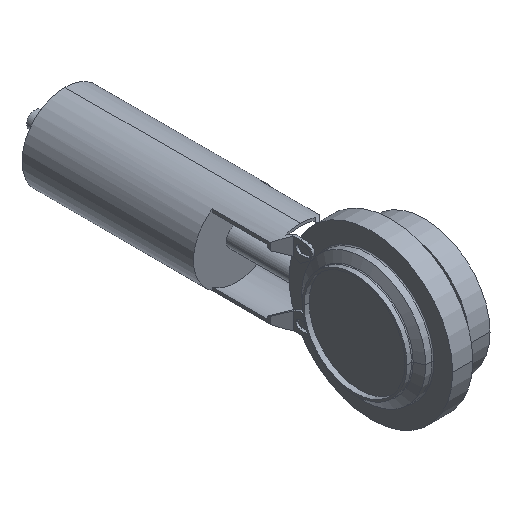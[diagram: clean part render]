
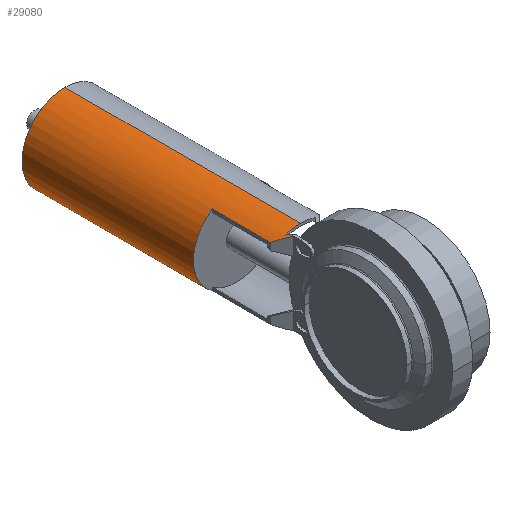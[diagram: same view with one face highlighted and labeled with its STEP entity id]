
A CAD part, isometric view. The second image highlights one B-rep face of the part: STEP entity #29080.
In plain terms, the highlighted cylindrical face has radius 42.5 mm (diameter 85 mm), a partial arc.
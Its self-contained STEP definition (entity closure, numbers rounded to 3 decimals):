
#17690=CARTESIAN_POINT('',(-438.648,176.528,
-35.075));
#17700=VERTEX_POINT('',#17690);
#17730=CARTESIAN_POINT('',(-414.648,176.528,
0.));
#17740=DIRECTION('',(0.,-1.,0.));
#17750=DIRECTION('',(0.,0.,1.));
#17760=AXIS2_PLACEMENT_3D('',#17730,#17740,#17750);
#17770=CIRCLE('',#17760,42.5);
#17780=CARTESIAN_POINT('',(-438.648,176.528,
35.075));
#17790=VERTEX_POINT('',#17780);
#17800=EDGE_CURVE('',#17790,#17700,#17770,.T.);
#22600=CARTESIAN_POINT('',(-414.648,113.128,
0.));
#22610=DIRECTION('',(0.,-1.,0.));
#22620=DIRECTION('',(0.,0.,-1.));
#22630=AXIS2_PLACEMENT_3D('',#22600,#22610,#22620);
#22640=CIRCLE('',#22630,42.5);
#22650=CARTESIAN_POINT('',(-414.648,113.128,-42.5));
#22660=VERTEX_POINT('',#22650);
#22690=CARTESIAN_POINT('',(-429.706,113.128,
-39.743));
#22700=VERTEX_POINT('',#22690);
#22710=EDGE_CURVE('',#22700,#22660,#22640,.T.);
#22970=CARTESIAN_POINT('',(-414.648,98.071,
0.));
#22980=DIRECTION('',(0.707,0.707,0.));
#22990=DIRECTION('',(0.707,-0.707,0.));
#23000=AXIS2_PLACEMENT_3D('',#22970,#22980,#22990);
#23010=ELLIPSE('',#23000,60.104,42.5);
#23020=CARTESIAN_POINT('',(-424.648,108.071,
-41.307));
#23030=VERTEX_POINT('',#23020);
#23040=EDGE_CURVE('',#23030,#22700,#23010,.T.);
#23220=CARTESIAN_POINT('',(-438.648,373.39,
-35.075));
#23230=DIRECTION('',(0.,-1.,0.));
#23240=VECTOR('',#23230,1.);
#23250=LINE('',#23220,#23240);
#23260=CARTESIAN_POINT('',(-438.648,118.535,
-35.075));
#23270=VERTEX_POINT('',#23260);
#23280=EDGE_CURVE('',#17700,#23270,#23250,.T.);
#23700=CARTESIAN_POINT('',(-427.148,100.58,
-40.62));
#23710=VERTEX_POINT('',#23700);
#23740=CARTESIAN_POINT('',(-427.148,373.39,
-40.62));
#23750=DIRECTION('',(0.,-1.,0.));
#23760=VECTOR('',#23750,1.);
#23770=LINE('',#23740,#23760);
#23780=CARTESIAN_POINT('',(-427.148,107.035,
-40.62));
#23790=VERTEX_POINT('',#23780);
#23800=EDGE_CURVE('',#23790,#23710,#23770,.T.);
#25380=CARTESIAN_POINT('',(-427.148,110.571,
40.62));
#25390=VERTEX_POINT('',#25380);
#25420=CARTESIAN_POINT('',(-414.648,98.071,
0.));
#25430=DIRECTION('',(0.707,0.707,0.));
#25440=DIRECTION('',(-0.707,0.707,0.));
#25450=AXIS2_PLACEMENT_3D('',#25420,#25430,#25440);
#25460=ELLIPSE('',#25450,60.104,42.5);
#25470=CARTESIAN_POINT('',(-429.706,113.128,
39.743));
#25480=VERTEX_POINT('',#25470);
#25490=EDGE_CURVE('',#25480,#25390,#25460,.T.);
#26820=CARTESIAN_POINT('',(-438.648,118.535,
35.075));
#26830=VERTEX_POINT('',#26820);
#27150=CARTESIAN_POINT('',(-438.648,373.39,
35.075));
#27160=DIRECTION('',(0.,-1.,0.));
#27170=VECTOR('',#27160,1.);
#27180=LINE('',#27150,#27170);
#27190=EDGE_CURVE('',#17790,#26830,#27180,.T.);
#28070=CARTESIAN_POINT('',(-414.648,113.128,
0.));
#28080=DIRECTION('',(0.,-1.,0.));
#28090=DIRECTION('',(0.,0.,1.));
#28100=AXIS2_PLACEMENT_3D('',#28070,#28080,#28090);
#28110=CIRCLE('',#28100,42.5);
#28120=CARTESIAN_POINT('',(-414.648,113.128,42.5));
#28130=VERTEX_POINT('',#28120);
#28140=EDGE_CURVE('',#28130,#25480,#28110,.T.);
#28240=CARTESIAN_POINT('',(-414.648,176.528,
0.));
#28250=DIRECTION('',(0.,-1.,0.));
#28260=DIRECTION('',(0.,0.,-1.));
#28270=AXIS2_PLACEMENT_3D('',#28240,#28250,#28260);
#28280=CYLINDRICAL_SURFACE('',#28270,42.5);
#28290=ORIENTED_EDGE('',*,*,#25490,.F.);
#28300=CARTESIAN_POINT('',(-427.148,373.39,
40.62));
#28310=DIRECTION('',(0.,-1.,0.));
#28320=VECTOR('',#28310,1.);
#28330=LINE('',#28300,#28320);
#28340=CARTESIAN_POINT('',(-427.148,107.035,
40.62));
#28350=VERTEX_POINT('',#28340);
#28360=EDGE_CURVE('',#25390,#28350,#28330,.T.);
#28370=ORIENTED_EDGE('',*,*,#28360,.F.);
#28380=CARTESIAN_POINT('',(-414.648,94.535,
0.));
#28390=DIRECTION('',(-0.707,-0.707,0.));
#28400=DIRECTION('',(0.707,-0.707,0.));
#28410=AXIS2_PLACEMENT_3D('',#28380,#28390,#28400);
#28420=ELLIPSE('',#28410,60.104,42.5);
#28430=EDGE_CURVE('',#28350,#26830,#28420,.T.);
#28440=ORIENTED_EDGE('',*,*,#28430,.F.);
#28450=ORIENTED_EDGE('',*,*,#27190,.T.);
#28460=ORIENTED_EDGE('',*,*,#17800,.F.);
#28470=ORIENTED_EDGE('',*,*,#23280,.F.);
#28480=CARTESIAN_POINT('',(-414.648,94.535,
0.));
#28490=DIRECTION('',(0.707,0.707,0.));
#28500=DIRECTION('',(0.707,-0.707,0.));
#28510=AXIS2_PLACEMENT_3D('',#28480,#28490,#28500);
#28520=ELLIPSE('',#28510,60.104,42.5);
#28530=EDGE_CURVE('',#23790,#23270,#28520,.T.);
#28540=ORIENTED_EDGE('',*,*,#28530,.T.);
#28550=ORIENTED_EDGE('',*,*,#23800,.F.);
#28560=CARTESIAN_POINT('',(-414.648,-255.939,
0.));
#28570=DIRECTION('',(0.,-0.113,-0.994));
#28580=DIRECTION('',(0.,0.994,-0.113));
#28590=AXIS2_PLACEMENT_3D('',#28560,#28570,#28580);
#28600=ELLIPSE('',#28590,375.431,42.5);
#28610=CARTESIAN_POINT('',(-425.296,105.183,
-41.145));
#28620=VERTEX_POINT('',#28610);
#28630=EDGE_CURVE('',#23710,#28620,#28600,.T.);
#28640=ORIENTED_EDGE('',*,*,#28630,.F.);
#28650=CARTESIAN_POINT('',(-414.648,94.535,
0.));
#28660=DIRECTION('',(-0.707,-0.707,0.));
#28670=DIRECTION('',(-0.707,0.707,0.));
#28680=AXIS2_PLACEMENT_3D('',#28650,#28660,#28670);
#28690=ELLIPSE('',#28680,60.104,42.5);
#28700=CARTESIAN_POINT('',(-424.648,104.535,
-41.307));
#28710=VERTEX_POINT('',#28700);
#28720=EDGE_CURVE('',#28620,#28710,#28690,.T.);
#28730=ORIENTED_EDGE('',*,*,#28720,.F.);
#28740=CARTESIAN_POINT('',(-424.648,373.39,
-41.307));
#28750=DIRECTION('',(0.,-1.,0.));
#28760=VECTOR('',#28750,1.);
#28770=LINE('',#28740,#28760);
#28780=EDGE_CURVE('',#23030,#28710,#28770,.T.);
#28790=ORIENTED_EDGE('',*,*,#28780,.T.);
#28800=ORIENTED_EDGE('',*,*,#23040,.F.);
#28810=ORIENTED_EDGE('',*,*,#22710,.F.);
#28820=CARTESIAN_POINT('',(-414.648,176.528,-42.5));
#28830=DIRECTION('',(0.,-1.,0.));
#28840=VECTOR('',#28830,1.);
#28850=LINE('',#28820,#28840);
#28860=CARTESIAN_POINT('',(-414.648,346.528,-42.5));
#28870=VERTEX_POINT('',#28860);
#28880=EDGE_CURVE('',#28870,#22660,#28850,.T.);
#28890=ORIENTED_EDGE('',*,*,#28880,.T.);
#28900=CARTESIAN_POINT('',(-414.648,346.528,
0.));
#28910=DIRECTION('',(0.,-1.,0.));
#28920=DIRECTION('',(0.,0.,-1.));
#28930=AXIS2_PLACEMENT_3D('',#28900,#28910,#28920);
#28940=CIRCLE('',#28930,42.5);
#28950=CARTESIAN_POINT('',(-414.648,346.528,42.5));
#28960=VERTEX_POINT('',#28950);
#28970=EDGE_CURVE('',#28960,#28870,#28940,.T.);
#28980=ORIENTED_EDGE('',*,*,#28970,.T.);
#28990=CARTESIAN_POINT('',(-414.648,176.528,42.5));
#29000=DIRECTION('',(0.,-1.,0.));
#29010=VECTOR('',#29000,1.);
#29020=LINE('',#28990,#29010);
#29030=EDGE_CURVE('',#28960,#28130,#29020,.T.);
#29040=ORIENTED_EDGE('',*,*,#29030,.F.);
#29050=ORIENTED_EDGE('',*,*,#28140,.F.);
#29060=EDGE_LOOP('',(#29050,#29040,#28980,#28890,#28810,#28800,#28790,
#28730,#28640,#28550,#28540,#28470,#28460,#28450,#28440,#28370,#28290));
#29070=FACE_OUTER_BOUND('',#29060,.T.);
#29080=ADVANCED_FACE('',(#29070),#28280,.T.);
